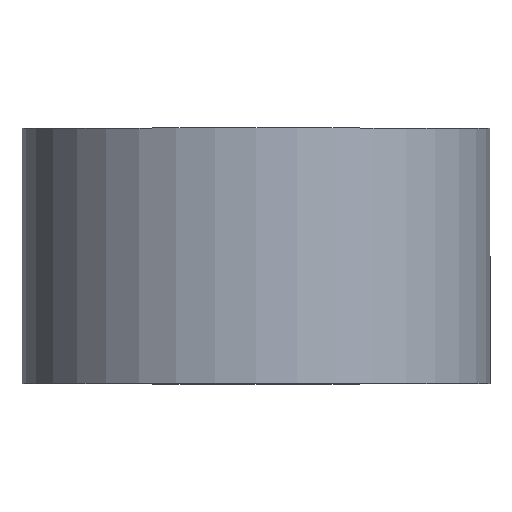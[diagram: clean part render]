
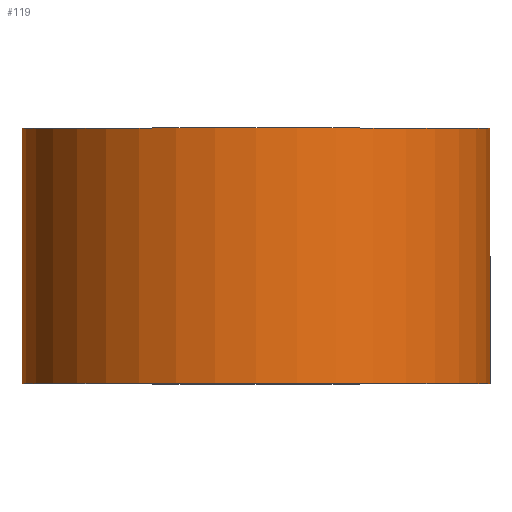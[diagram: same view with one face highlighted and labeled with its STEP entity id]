
A CAD part, top view. The second image highlights one B-rep face of the part: STEP entity #119.
In plain terms, the highlighted cylindrical face has radius 27.5 mm (diameter 55 mm), a partial arc.
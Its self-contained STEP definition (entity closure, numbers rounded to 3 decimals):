
#4 = FACE_OUTER_BOUND ( 'NONE', #293, .T. ) ;
#7 = CYLINDRICAL_SURFACE ( 'NONE', #144, 27.5 ) ;
#20 = CIRCLE ( 'NONE', #176, 27.5 ) ;
#27 = CARTESIAN_POINT ( 'NONE',  ( -27.5, 30., 0. ) ) ;
#39 = CARTESIAN_POINT ( 'NONE',  ( 27.5, 0., 0. ) ) ;
#41 = VECTOR ( 'NONE', #291, 1000. ) ;
#42 = AXIS2_PLACEMENT_3D ( 'NONE', #268, #245, #213 ) ;
#43 = VERTEX_POINT ( 'NONE', #195 ) ;
#49 = LINE ( 'NONE', #294, #236 ) ;
#50 = ORIENTED_EDGE ( 'NONE', *, *, #251, .F. ) ;
#52 = DIRECTION ( 'NONE',  ( 0., 1., 0. ) ) ;
#57 = LINE ( 'NONE', #205, #41 ) ;
#82 = ORIENTED_EDGE ( 'NONE', *, *, #199, .T. ) ;
#85 = VERTEX_POINT ( 'NONE', #27 ) ;
#90 = VERTEX_POINT ( 'NONE', #102 ) ;
#102 = CARTESIAN_POINT ( 'NONE',  ( -27.5, 0., 0. ) ) ;
#105 = CARTESIAN_POINT ( 'NONE',  ( 0., 0., 0. ) ) ;
#108 = CIRCLE ( 'NONE', #42, 27.5 ) ;
#119 = ADVANCED_FACE ( 'NONE', ( #4 ), #7, .T. ) ;
#123 = ORIENTED_EDGE ( 'NONE', *, *, #187, .F. ) ;
#134 = DIRECTION ( 'NONE',  ( 0., 1., 0. ) ) ;
#144 = AXIS2_PLACEMENT_3D ( 'NONE', #288, #52, #222 ) ;
#151 = DIRECTION ( 'NONE',  ( 0., 1., 0. ) ) ;
#154 = DIRECTION ( 'NONE',  ( -1., 0., 0. ) ) ;
#176 = AXIS2_PLACEMENT_3D ( 'NONE', #105, #151, #154 ) ;
#187 = EDGE_CURVE ( 'NONE', #90, #85, #57, .T. ) ;
#195 = CARTESIAN_POINT ( 'NONE',  ( 27.5, 30., 0. ) ) ;
#199 = EDGE_CURVE ( 'NONE', #90, #260, #20, .T. ) ;
#205 = CARTESIAN_POINT ( 'NONE',  ( -27.5, 0., 0. ) ) ;
#212 = ORIENTED_EDGE ( 'NONE', *, *, #273, .T. ) ;
#213 = DIRECTION ( 'NONE',  ( -1., 0., 0. ) ) ;
#222 = DIRECTION ( 'NONE',  ( -1., 0., 0. ) ) ;
#236 = VECTOR ( 'NONE', #134, 1000. ) ;
#245 = DIRECTION ( 'NONE',  ( 0., 1., 0. ) ) ;
#251 = EDGE_CURVE ( 'NONE', #85, #43, #108, .T. ) ;
#260 = VERTEX_POINT ( 'NONE', #39 ) ;
#268 = CARTESIAN_POINT ( 'NONE',  ( 0., 30., 0. ) ) ;
#273 = EDGE_CURVE ( 'NONE', #260, #43, #49, .T. ) ;
#288 = CARTESIAN_POINT ( 'NONE',  ( 0., 0., 0. ) ) ;
#291 = DIRECTION ( 'NONE',  ( 0., 1., 0. ) ) ;
#293 = EDGE_LOOP ( 'NONE', ( #82, #212, #50, #123 ) ) ;
#294 = CARTESIAN_POINT ( 'NONE',  ( 27.5, 0., 0. ) ) ;
